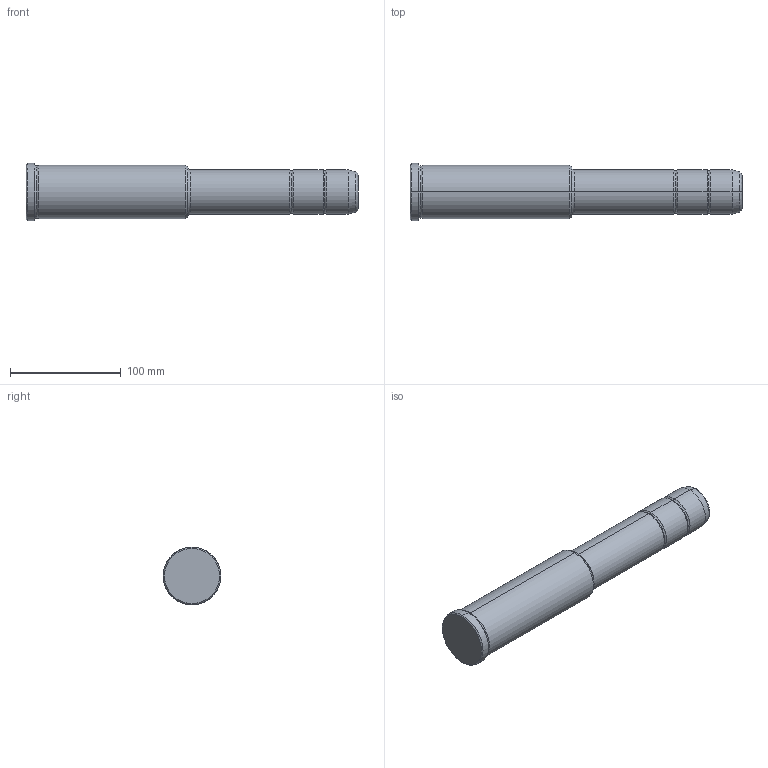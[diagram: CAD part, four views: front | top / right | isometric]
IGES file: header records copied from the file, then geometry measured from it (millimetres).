
Start section: START RECORD GO HERE.
Global section: file name: 351-40X146X300.igs; native system: DASSAULT SYSTEMES CATIA V5 R20 - www.3ds.com; preprocessor: CATIA Version 5 Release 20 ; author: Utente; organization: NB04-ASUS; date: 20211028.204222; units: millimetre
Bounding box: 300 x 52 x 52 mm (x, y, z)
Surface area: 45164.4 mm2 (no closed solid volume)
Topology: 0 solids, 0 shells, 36 faces, 204 edges, 204 vertices
Faces by surface type: revolution 32, plane 4
